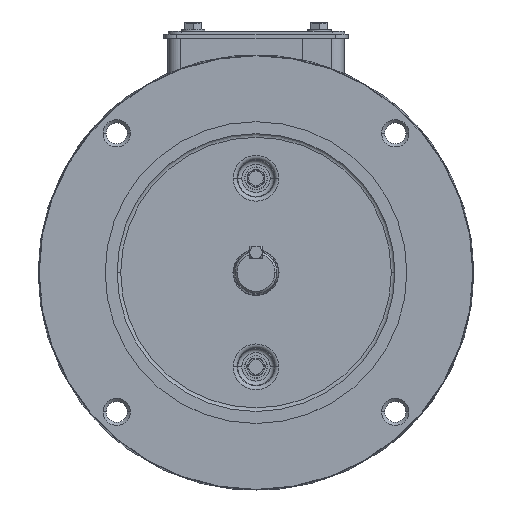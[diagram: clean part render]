
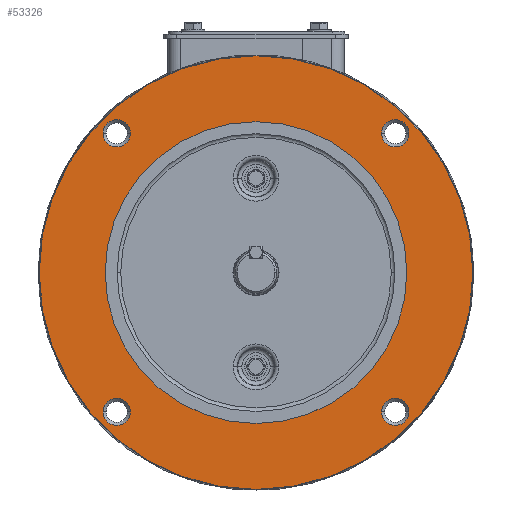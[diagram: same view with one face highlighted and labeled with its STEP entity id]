
A CAD part, top view. The second image highlights one B-rep face of the part: STEP entity #53326.
In plain terms, the highlighted planar face has unit normal (0, 0, 1).
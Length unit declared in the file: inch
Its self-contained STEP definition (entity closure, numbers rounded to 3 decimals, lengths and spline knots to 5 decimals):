
#328 = VERTEX_POINT ( 'NONE', #2295 ) ;
#2295 = CARTESIAN_POINT ( 'NONE',  ( -2.28013, -2.07713, -2.0635 ) ) ;
#2421 = EDGE_CURVE ( 'NONE', #18753, #11176, #43580, .T. ) ;
#4702 = ORIENTED_EDGE ( 'NONE', *, *, #29000, .T. ) ;
#5521 = AXIS2_PLACEMENT_3D ( 'NONE', #80696, #40071, #87495 ) ;
#6872 = AXIS2_PLACEMENT_3D ( 'NONE', #72363, #31735, #79198 ) ;
#7410 = CARTESIAN_POINT ( 'NONE',  ( 0., 0., -2.0635 ) ) ;
#7862 = DIRECTION ( 'NONE',  ( 0., 0., -1. ) ) ;
#8522 = ORIENTED_EDGE ( 'NONE', *, *, #70727, .F. ) ;
#9635 = EDGE_LOOP ( 'NONE', ( #4702, #34269 ) ) ;
#10361 = EDGE_LOOP ( 'NONE', ( #64137, #78041 ) ) ;
#11176 = VERTEX_POINT ( 'NONE', #53028 ) ;
#12447 = CARTESIAN_POINT ( 'NONE',  ( 0., 0., -2.0635 ) ) ;
#12504 = EDGE_CURVE ( 'NONE', #328, #29507, #32639, .T. ) ;
#14270 = DIRECTION ( 'NONE',  ( 1., 0., 0. ) ) ;
#15060 = AXIS2_PLACEMENT_3D ( 'NONE', #18649, #66075, #25461 ) ;
#15193 = ORIENTED_EDGE ( 'NONE', *, *, #62229, .T. ) ;
#16004 = CARTESIAN_POINT ( 'NONE',  ( 2.28013, -2.07713, -2.0635 ) ) ;
#16075 = CARTESIAN_POINT ( 'NONE',  ( 2.07713, -2.07713, -2.0635 ) ) ;
#16879 = FACE_BOUND ( 'NONE', #34184, .T. ) ;
#16976 = CARTESIAN_POINT ( 'NONE',  ( 0., 0., -2.0635 ) ) ;
#17004 = CIRCLE ( 'NONE', #48768, 0.203 ) ;
#18404 = ORIENTED_EDGE ( 'NONE', *, *, #62251, .T. ) ;
#18649 = CARTESIAN_POINT ( 'NONE',  ( -2.07713, 2.07713, -2.0635 ) ) ;
#18753 = VERTEX_POINT ( 'NONE', #79638 ) ;
#19385 = CARTESIAN_POINT ( 'NONE',  ( 1.87413, 2.07713, -2.0635 ) ) ;
#22696 = DIRECTION ( 'NONE',  ( 0., 0., -1. ) ) ;
#22902 = DIRECTION ( 'NONE',  ( 1., 0., 0. ) ) ;
#23169 = EDGE_CURVE ( 'NONE', #29507, #328, #58405, .T. ) ;
#23803 = DIRECTION ( 'NONE',  ( 1., 0., 0. ) ) ;
#25461 = DIRECTION ( 'NONE',  ( 1., 0., 0. ) ) ;
#25940 = DIRECTION ( 'NONE',  ( 1., 0., 0. ) ) ;
#26525 = DIRECTION ( 'NONE',  ( 0., 0., 1. ) ) ;
#27806 = AXIS2_PLACEMENT_3D ( 'NONE', #48509, #7862, #55333 ) ;
#29000 = EDGE_CURVE ( 'NONE', #67320, #73113, #30095, .T. ) ;
#29507 = VERTEX_POINT ( 'NONE', #34534 ) ;
#29894 = DIRECTION ( 'NONE',  ( 0., 0., -1. ) ) ;
#30095 = CIRCLE ( 'NONE', #15060, 0.203 ) ;
#30568 = EDGE_CURVE ( 'NONE', #30638, #66616, #70972, .T. ) ;
#30595 = CARTESIAN_POINT ( 'NONE',  ( -2.28013, 2.07713, -2.0635 ) ) ;
#30638 = VERTEX_POINT ( 'NONE', #33768 ) ;
#31285 = CARTESIAN_POINT ( 'NONE',  ( 0., 0., -2.0635 ) ) ;
#31735 = DIRECTION ( 'NONE',  ( 0., 0., -1. ) ) ;
#32639 = CIRCLE ( 'NONE', #6872, 0.203 ) ;
#32931 = DIRECTION ( 'NONE',  ( 0., 0., 1. ) ) ;
#33768 = CARTESIAN_POINT ( 'NONE',  ( 2.28013, 2.07713, -2.0635 ) ) ;
#34184 = EDGE_LOOP ( 'NONE', ( #51539, #15193 ) ) ;
#34269 = ORIENTED_EDGE ( 'NONE', *, *, #65307, .T. ) ;
#34534 = CARTESIAN_POINT ( 'NONE',  ( -1.87413, -2.07713, -2.0635 ) ) ;
#34922 = FACE_BOUND ( 'NONE', #9635, .T. ) ;
#35561 = CARTESIAN_POINT ( 'NONE',  ( 1.87413, -2.07713, -2.0635 ) ) ;
#37019 = DIRECTION ( 'NONE',  ( 0., 0., -1. ) ) ;
#39457 = PLANE ( 'NONE',  #67682 ) ;
#40007 = CARTESIAN_POINT ( 'NONE',  ( 2.07713, 2.07713, -2.0635 ) ) ;
#40071 = DIRECTION ( 'NONE',  ( 0., 0., -1. ) ) ;
#40510 = EDGE_LOOP ( 'NONE', ( #41472, #58625 ) ) ;
#40836 = EDGE_CURVE ( 'NONE', #82507, #80860, #17004, .T. ) ;
#41438 = AXIS2_PLACEMENT_3D ( 'NONE', #70525, #29894, #77360 ) ;
#41472 = ORIENTED_EDGE ( 'NONE', *, *, #23169, .T. ) ;
#41811 = AXIS2_PLACEMENT_3D ( 'NONE', #16976, #64421, #23803 ) ;
#43282 = AXIS2_PLACEMENT_3D ( 'NONE', #77638, #37019, #84435 ) ;
#43580 = CIRCLE ( 'NONE', #84071, 2.25 ) ;
#44677 = AXIS2_PLACEMENT_3D ( 'NONE', #40007, #87430, #46807 ) ;
#46807 = DIRECTION ( 'NONE',  ( 1., 0., 0. ) ) ;
#47460 = EDGE_CURVE ( 'NONE', #11176, #18753, #68552, .T. ) ;
#48509 = CARTESIAN_POINT ( 'NONE',  ( 2.07713, 2.07713, -2.0635 ) ) ;
#48768 = AXIS2_PLACEMENT_3D ( 'NONE', #16075, #63497, #22902 ) ;
#48828 = ORIENTED_EDGE ( 'NONE', *, *, #40836, .T. ) ;
#50485 = EDGE_LOOP ( 'NONE', ( #8522, #54838 ) ) ;
#51539 = ORIENTED_EDGE ( 'NONE', *, *, #30568, .T. ) ;
#52961 = FACE_OUTER_BOUND ( 'NONE', #50485, .T. ) ;
#53028 = CARTESIAN_POINT ( 'NONE',  ( 2.25, 0., -2.0635 ) ) ;
#53326 = ADVANCED_FACE ( 'NONE', ( #52961, #70990, #34922, #16879, #86913, #68872 ), #39457, .T. ) ;
#53690 = CIRCLE ( 'NONE', #5521, 3.23401 ) ;
#54838 = ORIENTED_EDGE ( 'NONE', *, *, #73244, .F. ) ;
#54887 = DIRECTION ( 'NONE',  ( 0., 0., 1. ) ) ;
#55177 = AXIS2_PLACEMENT_3D ( 'NONE', #63295, #22696, #70115 ) ;
#55333 = DIRECTION ( 'NONE',  ( 1., 0., 0. ) ) ;
#58405 = CIRCLE ( 'NONE', #43282, 0.203 ) ;
#58625 = ORIENTED_EDGE ( 'NONE', *, *, #12504, .T. ) ;
#61688 = AXIS2_PLACEMENT_3D ( 'NONE', #7410, #54887, #14270 ) ;
#61732 = VERTEX_POINT ( 'NONE', #76505 ) ;
#62229 = EDGE_CURVE ( 'NONE', #66616, #30638, #64440, .T. ) ;
#62251 = EDGE_CURVE ( 'NONE', #80860, #82507, #68713, .T. ) ;
#62726 = EDGE_LOOP ( 'NONE', ( #18404, #48828 ) ) ;
#63295 = CARTESIAN_POINT ( 'NONE',  ( -2.07713, 2.07713, -2.0635 ) ) ;
#63497 = DIRECTION ( 'NONE',  ( 0., 0., -1. ) ) ;
#64137 = ORIENTED_EDGE ( 'NONE', *, *, #47460, .F. ) ;
#64421 = DIRECTION ( 'NONE',  ( 0., 0., -1. ) ) ;
#64440 = CIRCLE ( 'NONE', #27806, 0.203 ) ;
#65307 = EDGE_CURVE ( 'NONE', #73113, #67320, #84373, .T. ) ;
#66075 = DIRECTION ( 'NONE',  ( 0., 0., -1. ) ) ;
#66616 = VERTEX_POINT ( 'NONE', #19385 ) ;
#67320 = VERTEX_POINT ( 'NONE', #69879 ) ;
#67682 = AXIS2_PLACEMENT_3D ( 'NONE', #12447, #32931, #80386 ) ;
#68486 = VERTEX_POINT ( 'NONE', #71472 ) ;
#68552 = CIRCLE ( 'NONE', #61688, 2.25 ) ;
#68713 = CIRCLE ( 'NONE', #41438, 0.203 ) ;
#68872 = FACE_BOUND ( 'NONE', #40510, .T. ) ;
#69879 = CARTESIAN_POINT ( 'NONE',  ( -1.87413, 2.07713, -2.0635 ) ) ;
#70115 = DIRECTION ( 'NONE',  ( 1., 0., 0. ) ) ;
#70525 = CARTESIAN_POINT ( 'NONE',  ( 2.07713, -2.07713, -2.0635 ) ) ;
#70727 = EDGE_CURVE ( 'NONE', #68486, #61732, #80431, .T. ) ;
#70972 = CIRCLE ( 'NONE', #44677, 0.203 ) ;
#70990 = FACE_BOUND ( 'NONE', #10361, .T. ) ;
#71472 = CARTESIAN_POINT ( 'NONE',  ( -3.23401, 0., -2.0635 ) ) ;
#72363 = CARTESIAN_POINT ( 'NONE',  ( -2.07713, -2.07713, -2.0635 ) ) ;
#73113 = VERTEX_POINT ( 'NONE', #30595 ) ;
#73244 = EDGE_CURVE ( 'NONE', #61732, #68486, #53690, .T. ) ;
#76505 = CARTESIAN_POINT ( 'NONE',  ( 3.23401, 0., -2.0635 ) ) ;
#77360 = DIRECTION ( 'NONE',  ( 1., 0., 0. ) ) ;
#77638 = CARTESIAN_POINT ( 'NONE',  ( -2.07713, -2.07713, -2.0635 ) ) ;
#78041 = ORIENTED_EDGE ( 'NONE', *, *, #2421, .F. ) ;
#79198 = DIRECTION ( 'NONE',  ( 1., 0., 0. ) ) ;
#79638 = CARTESIAN_POINT ( 'NONE',  ( -2.25, 0., -2.0635 ) ) ;
#80386 = DIRECTION ( 'NONE',  ( 1., 0., 0. ) ) ;
#80431 = CIRCLE ( 'NONE', #41811, 3.23401 ) ;
#80696 = CARTESIAN_POINT ( 'NONE',  ( 0., 0., -2.0635 ) ) ;
#80860 = VERTEX_POINT ( 'NONE', #16004 ) ;
#82507 = VERTEX_POINT ( 'NONE', #35561 ) ;
#84071 = AXIS2_PLACEMENT_3D ( 'NONE', #31285, #26525, #25940 ) ;
#84373 = CIRCLE ( 'NONE', #55177, 0.203 ) ;
#84435 = DIRECTION ( 'NONE',  ( 1., 0., 0. ) ) ;
#86913 = FACE_BOUND ( 'NONE', #62726, .T. ) ;
#87430 = DIRECTION ( 'NONE',  ( 0., 0., -1. ) ) ;
#87495 = DIRECTION ( 'NONE',  ( 1., 0., 0. ) ) ;
